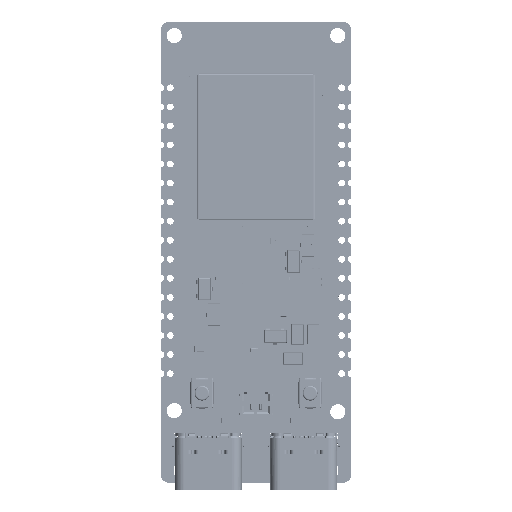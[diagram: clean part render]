
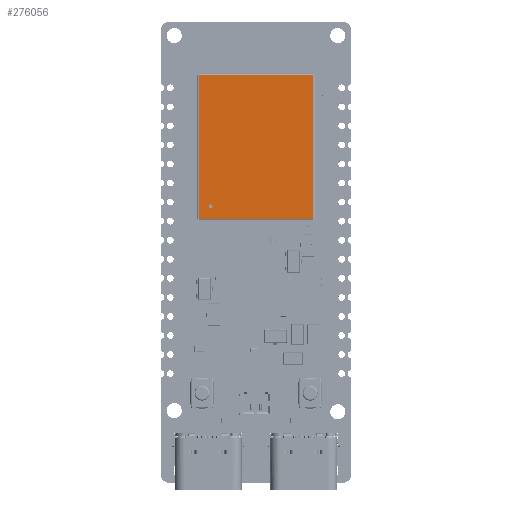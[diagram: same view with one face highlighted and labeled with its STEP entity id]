
A CAD part, top view. The second image highlights one B-rep face of the part: STEP entity #276056.
In plain terms, the highlighted planar face has unit normal (0, 0, 1).
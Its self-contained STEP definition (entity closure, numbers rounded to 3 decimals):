
#275089=DIRECTION('',(-1.,0.,0.));
#275090=VECTOR('',#275089,15.3);
#275091=CARTESIAN_POINT('',(16.65,18.4,3.1));
#275092=LINE('',#275091,#275090);
#275145=CARTESIAN_POINT('',(2.97,0.94,3.1));
#275146=DIRECTION('',(0.,0.,-1.));
#275147=DIRECTION('',(-1.,0.,0.));
#275148=AXIS2_PLACEMENT_3D('',#275145,#275146,#275147);
#275150=CARTESIAN_POINT('',(2.97,0.94,3.1));
#275151=DIRECTION('',(0.,0.,-1.));
#275152=DIRECTION('',(1.,0.,0.));
#275153=AXIS2_PLACEMENT_3D('',#275150,#275151,#275152);
#275155=DIRECTION('',(-1.,0.,0.));
#275156=VECTOR('',#275155,15.3);
#275157=CARTESIAN_POINT('',(16.65,-0.7,3.1));
#275158=LINE('',#275157,#275156);
#275231=DIRECTION('',(0.,1.,0.));
#275232=VECTOR('',#275231,19.1);
#275233=CARTESIAN_POINT('',(16.65,-0.7,3.1));
#275234=LINE('',#275233,#275232);
#275487=DIRECTION('',(0.,-1.,0.));
#275488=VECTOR('',#275487,19.1);
#275489=CARTESIAN_POINT('',(1.35,18.4,3.1));
#275490=LINE('',#275489,#275488);
#275555=CARTESIAN_POINT('',(16.65,18.4,3.1));
#275556=CARTESIAN_POINT('',(1.35,18.4,3.1));
#275557=VERTEX_POINT('',#275555);
#275558=VERTEX_POINT('',#275556);
#275611=CARTESIAN_POINT('',(16.65,-0.7,3.1));
#275613=VERTEX_POINT('',#275611);
#275616=CARTESIAN_POINT('',(1.35,-0.7,3.1));
#275618=VERTEX_POINT('',#275616);
#275652=CARTESIAN_POINT('',(3.22,0.94,3.1));
#275654=VERTEX_POINT('',#275652);
#275657=CARTESIAN_POINT('',(2.72,0.94,3.1));
#275658=VERTEX_POINT('',#275657);
#276037=CARTESIAN_POINT('',(9.,9.85,3.1));
#276038=DIRECTION('',(0.,0.,1.));
#276039=DIRECTION('',(1.,0.,0.));
#276040=AXIS2_PLACEMENT_3D('',#276037,#276038,#276039);
#276041=PLANE('',#276040);
#276043=ORIENTED_EDGE('',*,*,#276042,.T.);
#276045=ORIENTED_EDGE('',*,*,#276044,.F.);
#276046=ORIENTED_EDGE('',*,*,#275929,.F.);
#276048=ORIENTED_EDGE('',*,*,#276047,.F.);
#276049=EDGE_LOOP('',(#276043,#276045,#276046,#276048));
#276050=FACE_OUTER_BOUND('',#276049,.F.);
#276051=ORIENTED_EDGE('',*,*,#276020,.F.);
#276053=ORIENTED_EDGE('',*,*,#276052,.F.);
#276054=EDGE_LOOP('',(#276051,#276053));
#276055=FACE_BOUND('',#276054,.F.);
#276056=ADVANCED_FACE('',(#276050,#276055),#276041,.T.);
#275149=CIRCLE('',#275148,0.25);
#275154=CIRCLE('',#275153,0.25);
#275929=EDGE_CURVE('',#275557,#275558,#275092,.T.);
#276020=EDGE_CURVE('',#275658,#275654,#275149,.T.);
#276042=EDGE_CURVE('',#275613,#275618,#275158,.T.);
#276044=EDGE_CURVE('',#275558,#275618,#275490,.T.);
#276047=EDGE_CURVE('',#275613,#275557,#275234,.T.);
#276052=EDGE_CURVE('',#275654,#275658,#275154,.T.);
